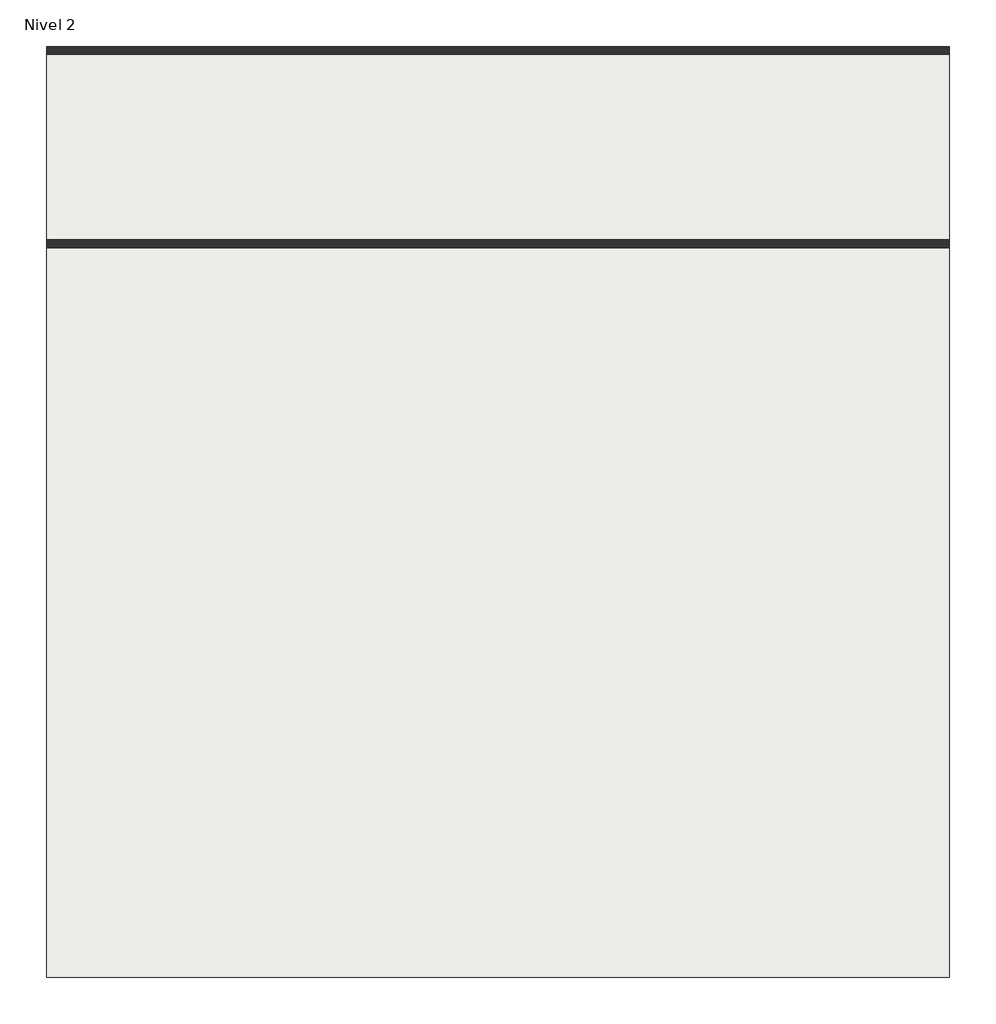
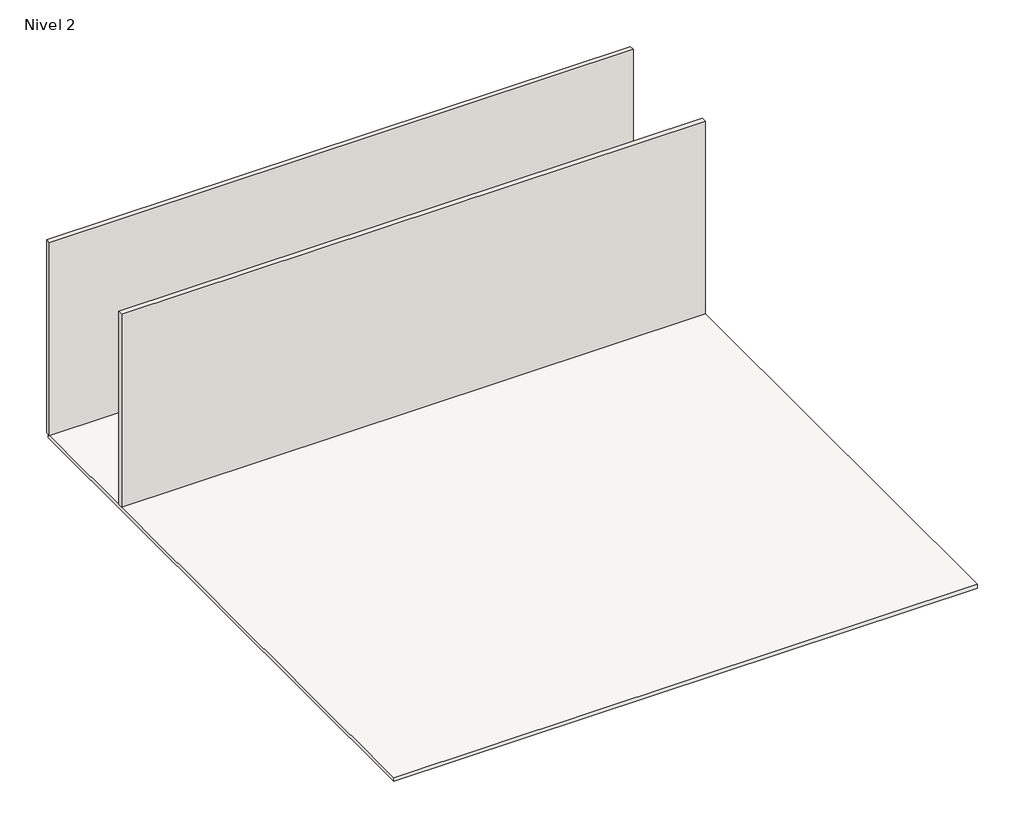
# One storey, incomplete: 2 walls, 1 slab.
"""IFC4 building model written with IfcOpenShell, lengths in millimetres."""

from ifc_helpers import new_model, si_unit, frame, origin, place, context, project, spatial, polyline, outline, extrude, element, save

model = new_model("IFC4")

# Units and contexts
model_context = context("Model", 3, world=origin())
ifc_project = project(units=[si_unit("LENGTHUNIT", "METRE", prefix="MILLI")], contexts=[model_context])

# Site, building, storey
site = spatial("IfcSite", under=ifc_project)
building = spatial("IfcBuilding", under=site)
storey = spatial("IfcBuildingStorey", under=building, Name="Nivel 2", Elevation=4000.0)

# Slab
placement = place(None, origin())
element("IfcSlab", 1, ObjectType="Genérico 150 mm", at=placement, inside=storey, context=model_context, shape_type="SweptSolid", body=[
    extrude(outline(polyline([(11679.5577631, 13448.4136988), (11679.5577631, -10051.5863012), (-11220.4422369, -10051.5863012), (-11220.4422369, 13448.4136988), (11679.5577631, 13448.4136988)])), frame((0.0, 0.0, 3850.0), z_axis=(0.0, 0.0, 1.0), x_axis=(1.0, 0.0, 0.0)), (0.0, 0.0, 1.0), 150.0),
])

# Walls
element("IfcWall", 2, ObjectType="Genérico - 200 mm", at=placement, inside=storey, context=model_context, shape_type="SweptSolid", body=[
    extrude(outline(polyline([(11679.5577631, 8448.4136988), (-11220.4422369, 8448.4136988), (-11220.4422369, 8648.4136988), (11679.5577631, 8648.4136988), (11679.5577631, 8448.4136988)])), frame((0.0, 0.0, 4000.0), z_axis=(0.0, 0.0, 1.0), x_axis=(1.0, 0.0, 0.0)), (0.0, 0.0, 1.0), 8000.0),
])
element("IfcWall", 3, ObjectType="Genérico - 200 mm", at=placement, inside=storey, context=model_context, shape_type="SweptSolid", body=[
    extrude(outline(polyline([(11679.5577631, 13348.4136988), (-11220.4422369, 13348.4136988), (-11220.4422369, 13548.4136988), (11679.5577631, 13548.4136988), (11679.5577631, 13348.4136988)])), frame((0.0, 0.0, 4000.0), z_axis=(0.0, 0.0, 1.0), x_axis=(1.0, 0.0, 0.0)), (0.0, 0.0, 1.0), 8000.0),
])

save(model, "model.ifc")
